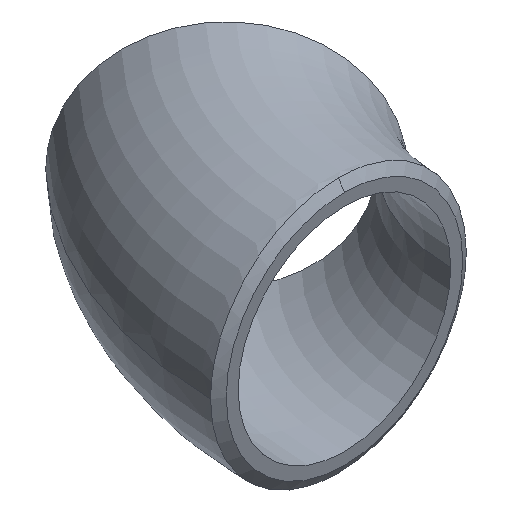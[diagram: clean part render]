
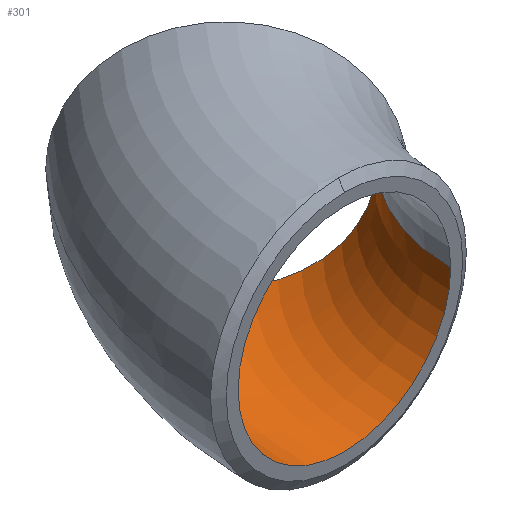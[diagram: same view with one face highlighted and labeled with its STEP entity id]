
A CAD part, isometric view. The second image highlights one B-rep face of the part: STEP entity #301.
In plain terms, the highlighted toroidal (fillet/blend) face has major radius 47.56 mm and minor radius 17.75 mm.
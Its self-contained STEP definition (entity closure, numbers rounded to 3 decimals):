
#30 = DIRECTION ( 'NONE',  ( 0., -1., 0. ) ) ;
#33 = ORIENTED_EDGE ( 'NONE', *, *, #475, .T. ) ;
#38 = CARTESIAN_POINT ( 'NONE',  ( 13.93, 33.63, 0. ) ) ;
#40 = CARTESIAN_POINT ( 'NONE',  ( 17.75, 0., 0. ) ) ;
#49 = CARTESIAN_POINT ( 'NONE',  ( 47.56, 0., 0. ) ) ;
#51 = DIRECTION ( 'NONE',  ( 0., 0., 1. ) ) ;
#62 = AXIS2_PLACEMENT_3D ( 'NONE', #416, #30, #544 ) ;
#69 = AXIS2_PLACEMENT_3D ( 'NONE', #38, #113, #158 ) ;
#86 = ORIENTED_EDGE ( 'NONE', *, *, #200, .F. ) ;
#101 = EDGE_CURVE ( 'NONE', #207, #451, #357, .T. ) ;
#113 = DIRECTION ( 'NONE',  ( -0.707, -0.707, 0. ) ) ;
#152 = DIRECTION ( 'NONE',  ( 1., 0., 0. ) ) ;
#158 = DIRECTION ( 'NONE',  ( 0., 0., 1. ) ) ;
#169 = DIRECTION ( 'NONE',  ( 1., 0., 0. ) ) ;
#177 = EDGE_LOOP ( 'NONE', ( #86, #184, #33, #311 ) ) ;
#184 = ORIENTED_EDGE ( 'NONE', *, *, #101, .T. ) ;
#200 = EDGE_CURVE ( 'NONE', #207, #259, #208, .T. ) ;
#207 = VERTEX_POINT ( 'NONE', #255 ) ;
#208 = CIRCLE ( 'NONE', #69, 17.75 ) ;
#224 = CARTESIAN_POINT ( 'NONE',  ( 47.56, 0., 0. ) ) ;
#245 = CARTESIAN_POINT ( 'NONE',  ( 47.56, 0., 0. ) ) ;
#255 = CARTESIAN_POINT ( 'NONE',  ( 1.379, 46.181, 0. ) ) ;
#259 = VERTEX_POINT ( 'NONE', #292 ) ;
#268 = AXIS2_PLACEMENT_3D ( 'NONE', #245, #440, #152 ) ;
#269 = CIRCLE ( 'NONE', #290, 29.81 ) ;
#286 = CARTESIAN_POINT ( 'NONE',  ( -17.75, 0., 0. ) ) ;
#290 = AXIS2_PLACEMENT_3D ( 'NONE', #224, #499, #169 ) ;
#292 = CARTESIAN_POINT ( 'NONE',  ( 26.481, 21.079, 0. ) ) ;
#298 = TOROIDAL_SURFACE ( 'NONE', #540, 47.56, 17.75 ) ;
#301 = ADVANCED_FACE ( 'NONE', ( #391 ), #298, .F. ) ;
#311 = ORIENTED_EDGE ( 'NONE', *, *, #551, .F. ) ;
#341 = DIRECTION ( 'NONE',  ( 1., 0., 0. ) ) ;
#357 = CIRCLE ( 'NONE', #268, 65.31 ) ;
#376 = CIRCLE ( 'NONE', #62, 17.75 ) ;
#391 = FACE_OUTER_BOUND ( 'NONE', #177, .T. ) ;
#416 = CARTESIAN_POINT ( 'NONE',  ( 0., 0., 0. ) ) ;
#440 = DIRECTION ( 'NONE',  ( 0., 0., 1. ) ) ;
#451 = VERTEX_POINT ( 'NONE', #286 ) ;
#475 = EDGE_CURVE ( 'NONE', #451, #508, #376, .T. ) ;
#499 = DIRECTION ( 'NONE',  ( 0., 0., 1. ) ) ;
#508 = VERTEX_POINT ( 'NONE', #40 ) ;
#540 = AXIS2_PLACEMENT_3D ( 'NONE', #49, #51, #341 ) ;
#544 = DIRECTION ( 'NONE',  ( 0., 0., 1. ) ) ;
#551 = EDGE_CURVE ( 'NONE', #259, #508, #269, .T. ) ;
